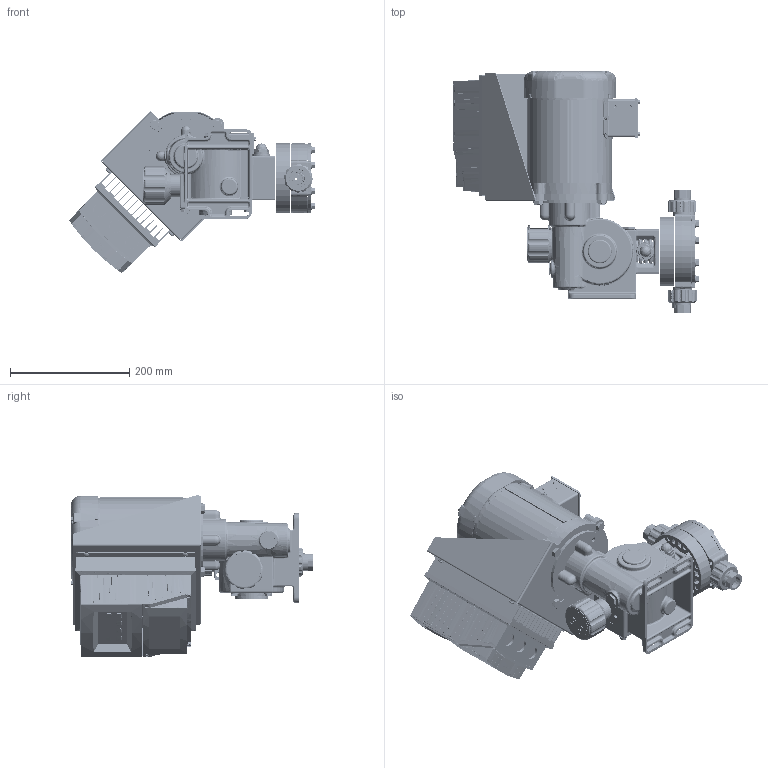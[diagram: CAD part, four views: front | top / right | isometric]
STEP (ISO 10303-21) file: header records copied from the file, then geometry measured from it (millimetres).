
FILE_DESCRIPTION (( 'STEP AP203' ), '1' );
FILE_NAME ('DM2DVFC.STEP', '2025-03-17T18:13:34', ( '' ), ( '' ), 'SwSTEP 2.0', 'SolidWorks 2023', '' );
FILE_SCHEMA (( 'CONFIG_CONTROL_DESIGN' ));
Length unit declared in the file: inch
Products named in the file (1): DM2DVFC
Bounding box: 412.58 x 405.72 x 272.09 mm (x, y, z)
Surface area: 926869.3 mm2 (no closed solid volume)
Topology: 0 solids, 260 shells, 2968 faces, 15253 edges, 12183 vertices
Faces by surface type: plane 1051, cylinder 1038, bspline 377, cone 285, torus 160, sphere 57
Entity records: 210204 total; most frequent: CARTESIAN_POINT 102314, ORIENTED_EDGE 20751, DIRECTION 19034, EDGE_CURVE 15212, VERTEX_POINT 12176, LINE 6444, VECTOR 6444, AXIS2_PLACEMENT_3D 6295
